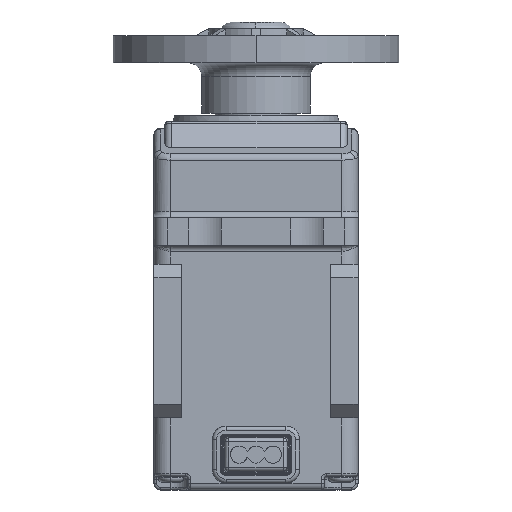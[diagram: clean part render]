
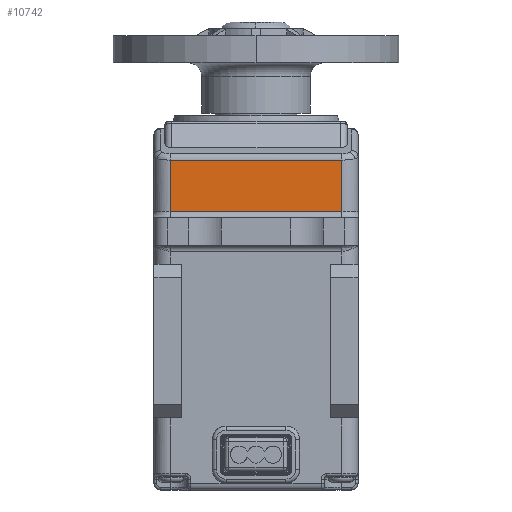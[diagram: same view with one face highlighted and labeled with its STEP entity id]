
A CAD part, front view. The second image highlights one B-rep face of the part: STEP entity #10742.
In plain terms, the highlighted planar face has unit normal (0, -1, 0).
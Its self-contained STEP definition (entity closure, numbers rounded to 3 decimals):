
#1957 = DIRECTION ( 'NONE',  ( 0., 0., -1. ) ) ;
#4606 = VERTEX_POINT ( 'NONE', #48295 ) ;
#4861 = LINE ( 'NONE', #12837, #28422 ) ;
#5948 = PLANE ( 'NONE',  #22381 ) ;
#6178 = EDGE_CURVE ( 'NONE', #4606, #46840, #10042, .T. ) ;
#6731 = CARTESIAN_POINT ( 'NONE',  ( -6.615, -9.25, -6.694 ) ) ;
#9554 = DIRECTION ( 'NONE',  ( 0., 0., 1. ) ) ;
#10042 = LINE ( 'NONE', #26273, #31641 ) ;
#10742 = ADVANCED_FACE ( 'NONE', ( #42348 ), #5948, .T. ) ;
#12837 = CARTESIAN_POINT ( 'NONE',  ( -6.615, -9.25, -2.85 ) ) ;
#13229 = CARTESIAN_POINT ( 'NONE',  ( 6.3, -9.25, -2.85 ) ) ;
#14091 = VERTEX_POINT ( 'NONE', #13229 ) ;
#14599 = VECTOR ( 'NONE', #45678, 1000. ) ;
#16258 = EDGE_CURVE ( 'NONE', #4606, #32769, #30293, .T. ) ;
#21239 = CARTESIAN_POINT ( 'NONE',  ( 6.3, -9.25, -6.694 ) ) ;
#21789 = CARTESIAN_POINT ( 'NONE',  ( -6.3, -9.25, -6.7 ) ) ;
#22381 = AXIS2_PLACEMENT_3D ( 'NONE', #6731, #38365, #1957 ) ;
#25444 = EDGE_CURVE ( 'NONE', #46840, #14091, #32938, .T. ) ;
#26273 = CARTESIAN_POINT ( 'NONE',  ( -6.615, -9.25, -6.6 ) ) ;
#26538 = DIRECTION ( 'NONE',  ( 1., 0., 0. ) ) ;
#28422 = VECTOR ( 'NONE', #29051, 1000. ) ;
#29051 = DIRECTION ( 'NONE',  ( -1., 0., 0. ) ) ;
#30293 = LINE ( 'NONE', #21789, #51928 ) ;
#31641 = VECTOR ( 'NONE', #26538, 1000. ) ;
#32769 = VERTEX_POINT ( 'NONE', #44620 ) ;
#32938 = LINE ( 'NONE', #21239, #14599 ) ;
#37994 = EDGE_LOOP ( 'NONE', ( #48808, #45601, #42517, #52199 ) ) ;
#38365 = DIRECTION ( 'NONE',  ( 0., -1., 0. ) ) ;
#41922 = EDGE_CURVE ( 'NONE', #14091, #32769, #4861, .T. ) ;
#42348 = FACE_OUTER_BOUND ( 'NONE', #37994, .T. ) ;
#42517 = ORIENTED_EDGE ( 'NONE', *, *, #16258, .F. ) ;
#44620 = CARTESIAN_POINT ( 'NONE',  ( -6.3, -9.25, -2.85 ) ) ;
#45601 = ORIENTED_EDGE ( 'NONE', *, *, #41922, .T. ) ;
#45678 = DIRECTION ( 'NONE',  ( 0., 0., 1. ) ) ;
#46840 = VERTEX_POINT ( 'NONE', #47163 ) ;
#47163 = CARTESIAN_POINT ( 'NONE',  ( 6.3, -9.25, -6.6 ) ) ;
#48295 = CARTESIAN_POINT ( 'NONE',  ( -6.3, -9.25, -6.6 ) ) ;
#48808 = ORIENTED_EDGE ( 'NONE', *, *, #25444, .T. ) ;
#51928 = VECTOR ( 'NONE', #9554, 1000. ) ;
#52199 = ORIENTED_EDGE ( 'NONE', *, *, #6178, .T. ) ;
